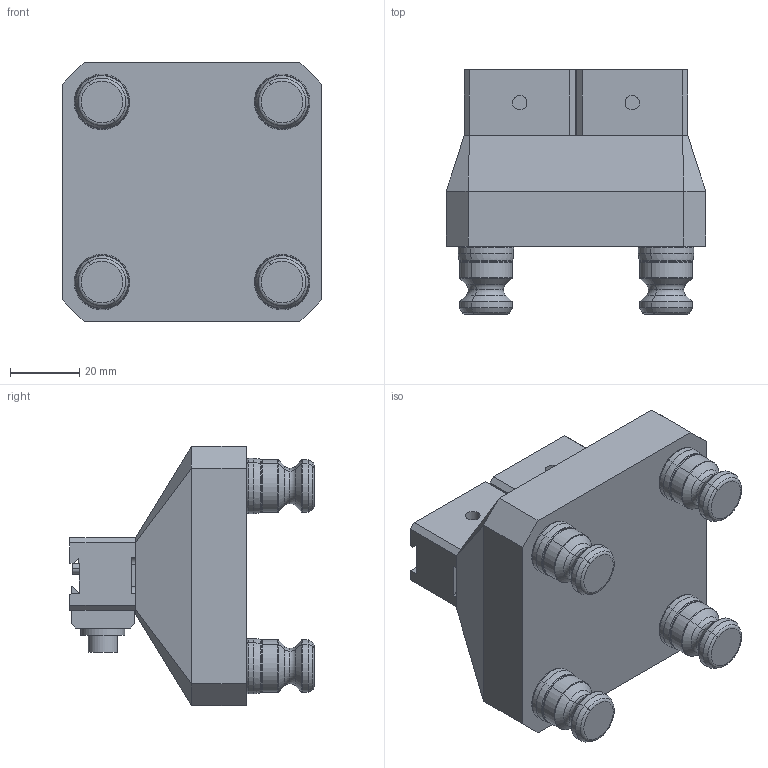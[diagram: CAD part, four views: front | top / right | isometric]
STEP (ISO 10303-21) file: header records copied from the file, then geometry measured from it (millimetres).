
FILE_DESCRIPTION (( 'STEP AP214' ), '1' );
FILE_NAME ('R52-2DM12 .STEP', '2020-03-13T18:02:45', ( '' ), ( '' ), 'SwSTEP 2.0', 'SolidWorks 2018', '' );
FILE_SCHEMA (( 'AUTOMOTIVE_DESIGN' ));
Length unit declared in the file: millimetre
Products named in the file (7): R52-2DM12 ; D_R52-DM12-1; D_DM12-2_CLW10; D_DM12-1_D051251WM; D_DM12-3_91595A100; D_PS16F_HARD TURN; D_DM12
Assembly tree (10 placements, depth 3):
  R52-2DM12 
    D_R52-DM12-1
    D_PS16F_HARD TURN  x4
    D_DM12  x2
      D_DM12-1_D051251WM
      D_DM12-2_CLW10
      D_DM12-3_91595A100
Bounding box: 75 x 70.56 x 75 mm (x, y, z)
Volume: 176964.2 mm3; surface area: 37353.3 mm2
Topology: 11 solids, 11 shells, 454 faces, 1026 edges, 604 vertices
Faces by surface type: plane 146, cylinder 132, cone 88, torus 88
Entity records: 7065 total; most frequent: DIRECTION 1239, CARTESIAN_POINT 1102, ORIENTED_EDGE 1042, EDGE_CURVE 521, AXIS2_PLACEMENT_3D 473, VERTEX_POINT 320, VECTOR 293, LINE 293
